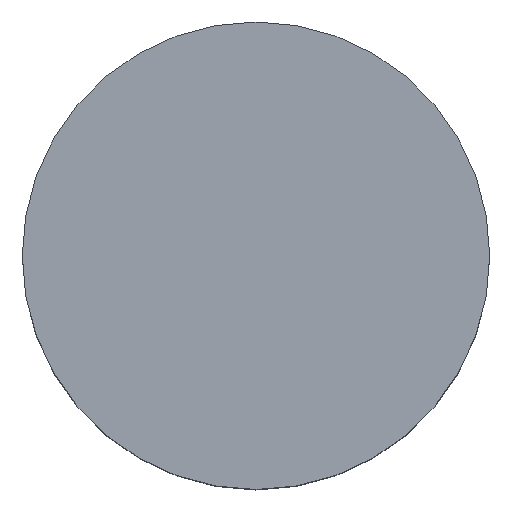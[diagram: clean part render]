
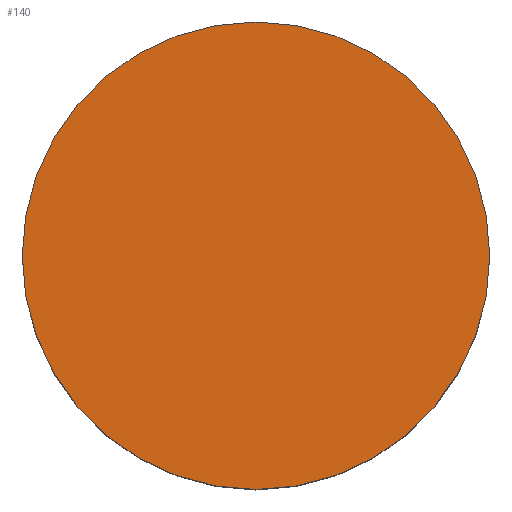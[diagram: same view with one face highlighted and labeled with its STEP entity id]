
A CAD part, top view. The second image highlights one B-rep face of the part: STEP entity #140.
In plain terms, the highlighted planar face has unit normal (0, 0, 1).
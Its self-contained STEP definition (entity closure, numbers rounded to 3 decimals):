
#24 = VERTEX_POINT('',#25);
#25 = CARTESIAN_POINT('',(4.25,0.,25.));
#32 = CYLINDRICAL_SURFACE('',#33,4.25);
#33 = AXIS2_PLACEMENT_3D('',#34,#35,#36);
#34 = CARTESIAN_POINT('',(0.,0.,20.));
#35 = DIRECTION('',(-0.,-0.,-1.));
#36 = DIRECTION('',(1.,0.,0.));
#51 = EDGE_CURVE('',#24,#24,#52,.T.);
#52 = SURFACE_CURVE('',#53,(#58,#65),.PCURVE_S1.);
#53 = CIRCLE('',#54,4.25);
#54 = AXIS2_PLACEMENT_3D('',#55,#56,#57);
#55 = CARTESIAN_POINT('',(0.,0.,25.));
#56 = DIRECTION('',(0.,0.,1.));
#57 = DIRECTION('',(1.,0.,0.));
#58 = PCURVE('',#32,#59);
#59 = DEFINITIONAL_REPRESENTATION('',(#60),#64);
#60 = LINE('',#61,#62);
#61 = CARTESIAN_POINT('',(-0.,-5.));
#62 = VECTOR('',#63,1.);
#63 = DIRECTION('',(-1.,0.));
#64 = ( GEOMETRIC_REPRESENTATION_CONTEXT(2) 
PARAMETRIC_REPRESENTATION_CONTEXT() REPRESENTATION_CONTEXT('2D SPACE',''
  ) );
#65 = PCURVE('',#66,#71);
#66 = PLANE('',#67);
#67 = AXIS2_PLACEMENT_3D('',#68,#69,#70);
#68 = CARTESIAN_POINT('',(0.,0.,25.));
#69 = DIRECTION('',(0.,0.,1.));
#70 = DIRECTION('',(1.,0.,-0.));
#71 = DEFINITIONAL_REPRESENTATION('',(#72),#76);
#72 = CIRCLE('',#73,4.25);
#73 = AXIS2_PLACEMENT_2D('',#74,#75);
#74 = CARTESIAN_POINT('',(0.,0.));
#75 = DIRECTION('',(1.,0.));
#76 = ( GEOMETRIC_REPRESENTATION_CONTEXT(2) 
PARAMETRIC_REPRESENTATION_CONTEXT() REPRESENTATION_CONTEXT('2D SPACE',''
  ) );
#140 = ADVANCED_FACE('',(#141),#66,.T.);
#141 = FACE_BOUND('',#142,.T.);
#142 = EDGE_LOOP('',(#143));
#143 = ORIENTED_EDGE('',*,*,#51,.T.);
